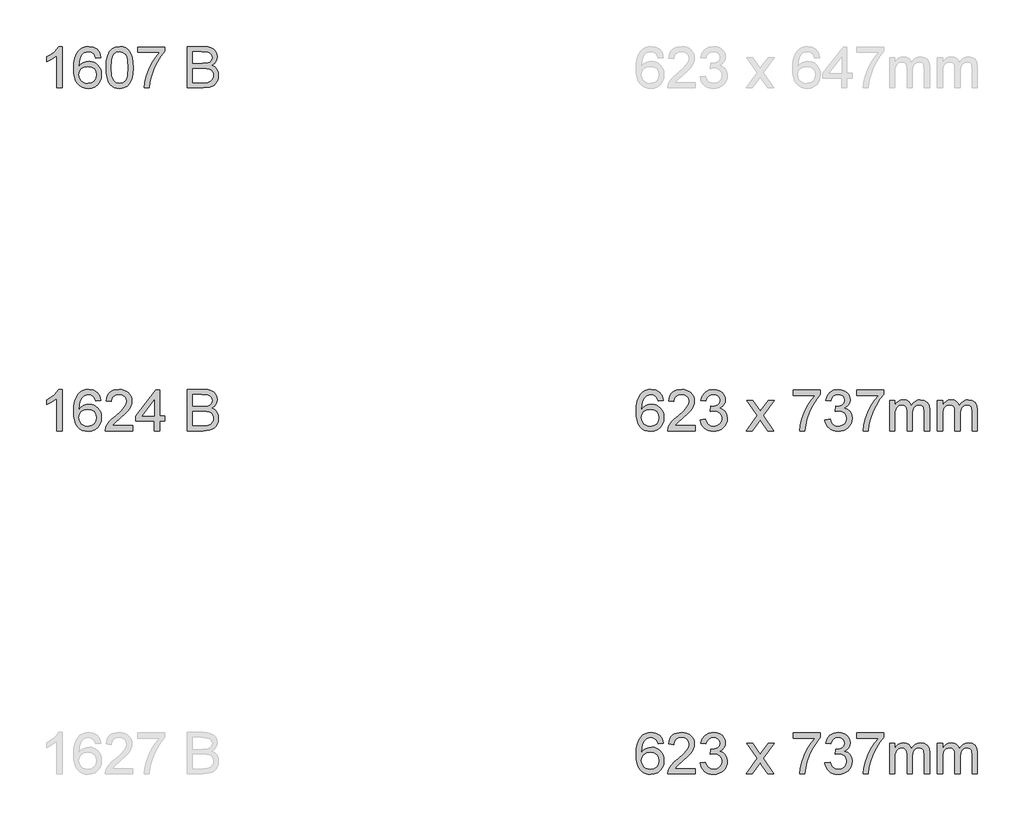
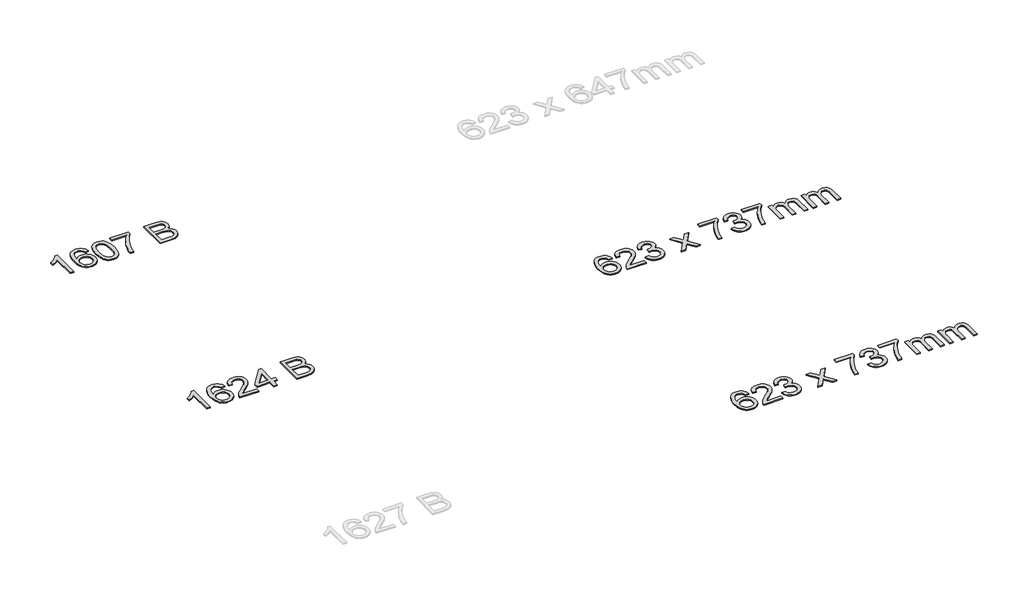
# One storey, part 30 of 39: 4 proxies.
"""IFC4 building model written with IfcOpenShell, lengths in millimetres."""

from ifc_helpers import new_model, si_unit, origin, origin_with_axes, place, context, project, spatial, polyline, outline, extrude, element, save

model = new_model("IFC4")

# Units and contexts
model_context = context("Model", 3, world=origin())
ifc_project = project(units=[si_unit("LENGTHUNIT", "METRE", prefix="MILLI")], contexts=[model_context])

# Site, building, storey
site = spatial("IfcSite", under=ifc_project)
building = spatial("IfcBuilding", under=site)
storey = spatial("IfcBuildingStorey", under=building, Name="Marelli - Linha PROFIT - Planta Baixa", Elevation=0.0)

# Proxies
placement = place(None, origin())
element("IfcBuildingElementProxy", 1, Name="300mm Arial", ObjectType="300mm Arial", at=placement, inside=storey, context=model_context, shape_type="SweptSolid", body=[
    extrude(outline(polyline([(-29517.1779543, 4219.4336799), (-29554.8490706, 4219.4336799), (-29554.8490706, 4454.2895457), (-29590.5336241, 4428.8688998), (-29630.1913032, 4409.8494006), (-29630.1913032, 4445.4603778), (-29600.6043938, 4461.5552151), (-29574.9722158, 4480.7034729), (-29554.7662972, 4501.0657413), (-29541.458166, 4520.8026104), (-29517.1779543, 4520.8026104), (-29517.1779543, 4219.4336799)])), origin_with_axes(), (0.0, 0.0, 1.0), 10.0),
    extrude(outline(polyline([(-29234.644582, 4440.7514882), (-29272.3156983, 4436.0425987), (-29278.3857512, 4454.7126099), (-29286.5895197, 4467.4597211), (-29303.6776384, 4479.2135508), (-29324.3342124, 4483.1314941), (-29341.8453954, 4480.8506257), (-29358.3265088, 4474.0080206), (-29372.4807686, 4459.5962434), (-29384.0414603, 4439.7582068), (-29391.8497556, 4411.6980077), (-29394.7468263, 4372.6197427), (-29379.6360734, 4390.2504873), (-29361.5270821, 4402.6757017), (-29341.4315282, 4410.0425387), (-29320.3610869, 4412.498151), (-29302.2612927, 4410.8196894), (-29285.5594501, 4405.7843046), (-29270.2555591, 4397.3919966), (-29256.3496197, 4385.6427654), (-29244.7935266, 4371.2355867), (-29236.5391743, 4354.8694365), (-29231.5865629, 4336.5443146), (-29229.9356925, 4316.2602211), (-29233.0442953, 4289.2852738), (-29242.3701039, 4264.2784951), (-29257.140566, 4243.0700981), (-29276.5831295, 4227.4902956), (-29299.8148775, 4217.9161667), (-29325.9528932, 4214.7247904), (-29348.4097898, 4216.8401119), (-29368.691584, 4223.1860763), (-29386.798276, 4233.7626836), (-29402.7298656, 4248.5699339), (-29415.7183993, 4268.2332266), (-29424.9959234, 4293.377961), (-29430.5624378, 4324.0041371), (-29432.4179426, 4360.1117549), (-29430.3578034, 4400.5925699), (-29424.1773859, 4435.1412878), (-29413.8766901, 4463.7579085), (-29399.4557159, 4486.442432), (-29383.8253296, 4501.4750101), (-29365.7025428, 4512.2125658), (-29345.0873555, 4518.6550992), (-29321.9797677, 4520.8026104), (-29288.9255704, 4515.4867156), (-29262.4564608, 4499.5390311), (-29243.9152083, 4474.2103557), (-29234.644582, 4440.7514882)]), holes=[polyline([(-29394.7468263, 4316.8488323), (-29392.5671255, 4300.1561867), (-29386.028023, 4284.2176993), (-29375.87448, 4270.514095), (-29362.8514573, 4260.5260988), (-29347.1336991, 4254.4284547), (-29328.8959492, 4252.3959067), (-29304.0363234, 4256.6081555), (-29284.4925924, 4269.2449021), (-29271.8282547, 4289.1105298), (-29267.6068088, 4315.0094223), (-29271.7730724, 4339.8690481), (-29284.2718632, 4358.8241679), (-29304.146688, 4370.826318), (-29330.4410536, 4374.8270347), (-29355.2638912, 4370.826318), (-29376.0216328, 4358.8241679), (-29390.0655279, 4340.3289006), (-29394.7468263, 4316.8488323)])]), origin_with_axes(), (0.0, 0.0, 1.0), 10.0),
    extrude(outline(polyline([(-29196.9734657, 4367.690124), (-29194.2051537, 4415.9286506), (-29185.9002177, 4454.3999103), (-29172.141431, 4483.6925141), (-29153.0115673, 4504.3950734), (-29128.3726707, 4516.7007261), (-29098.0867854, 4520.8026104), (-29074.8734315, 4518.3745892), (-29054.0880988, 4511.0905257), (-29036.7056745, 4499.2355284), (-29023.701046, 4483.0947059), (-29013.8785967, 4462.8060138), (-29006.0427102, 4438.5074081), (-29000.9107564, 4407.6513057), (-28999.2001051, 4367.690124), (-29001.940826, 4319.7275089), (-29010.1629886, 4281.3482197), (-29023.8390017, 4252.0280247), (-29042.9412743, 4231.242692), (-29067.6353533, 4218.8542658), (-29098.0867854, 4214.7247904), (-29118.8353299, 4216.5182151), (-29137.2294297, 4221.8984893), (-29153.2690847, 4230.8656129), (-29166.9542949, 4243.419586), (-29180.0876821, 4266.1133066), (-29189.468673, 4294.3896364), (-29195.0972675, 4328.2485756), (-29196.9734657, 4367.690124)]), holes=[polyline([(-29159.3023494, 4367.7637004), (-29154.8877655, 4308.507108), (-29149.3695355, 4288.2391093), (-29141.6440136, 4274.211309), (-29121.9255387, 4257.8497573), (-29098.0867854, 4252.3959067), (-29074.2480321, 4257.8681514), (-29054.5295572, 4274.2848854), (-29046.8040353, 4288.3356784), (-29041.2858053, 4308.5990785), (-29036.8712214, 4367.7637004), (-29041.1386525, 4425.6867205), (-29046.4729415, 4445.8880406), (-29053.940946, 4460.249234), (-29073.6226327, 4477.410929), (-29098.5282438, 4483.1314941), (-29122.1094797, 4478.0915107), (-29141.0554024, 4462.9715607), (-29149.0384417, 4447.3365759), (-29154.7406127, 4426.2569376), (-29159.3023494, 4367.7637004)])]), origin_with_axes(), (0.0, 0.0, 1.0), 10.0),
    extrude(outline(polyline([(-28966.2378783, 4478.4226045), (-28966.2378783, 4516.0937208), (-28768.4645177, 4516.0937208), (-28768.4645177, 4485.6330916), (-28796.6534756, 4449.9577352), (-28824.566522, 4404.5886881), (-28849.1870245, 4353.6646229), (-28867.4983508, 4301.3242121), (-28876.4746715, 4262.1631737), (-28881.4778666, 4219.4336799), (-28919.1489829, 4219.4336799), (-28915.0746899, 4258.2636245), (-28904.1761857, 4304.4144208), (-28886.7477762, 4353.3335291), (-28863.0837669, 4400.4684098), (-28835.455829, 4443.0783418), (-28806.135634, 4478.4226045), (-28966.2378783, 4478.4226045)])), origin_with_axes(), (0.0, 0.0, 1.0), 10.0),
    extrude(outline(polyline([(-28603.6533839, 4219.4336799), (-28603.6533839, 4520.8026104), (-28488.6534722, 4520.8026104), (-28457.0248177, 4518.5861214), (-28432.3307387, 4511.9366543), (-28413.4032101, 4500.6886623), (-28399.0742064, 4484.6765985), (-28390.0519004, 4465.8410403), (-28387.0444651, 4446.1225654), (-28389.5736538, 4427.9767859), (-28397.16122, 4410.9162584), (-28409.8623459, 4395.9894465), (-28427.7322138, 4384.2448138), (-28406.385861, 4373.0979893), (-28390.6129205, 4356.1386293), (-28380.8732447, 4334.4887739), (-28377.626686, 4309.2704632), (-28379.8431751, 4288.2552042), (-28386.4926421, 4268.7666555), (-28396.416259, 4252.1935716), (-28408.4551972, 4239.9247071), (-28423.1980682, 4231.0403569), (-28441.233483, 4224.6208161), (-28489.536389, 4219.4336799), (-28603.6533839, 4219.4336799)]), holes=[polyline([(-28565.9822676, 4398.3714824), (-28497.1883345, 4398.3714824), (-28457.0156206, 4401.6088439), (-28442.9533313, 4407.1914532), (-28432.8457735, 4415.5515716), (-28426.7481295, 4426.5604403), (-28424.7155814, 4440.0893006), (-28426.6101737, 4453.2226879), (-28432.2939505, 4464.6638179), (-28441.5093945, 4473.5941533), (-28453.9989882, 4479.1951567), (-28502.4122588, 4483.1314941), (-28565.9822676, 4483.1314941), (-28565.9822676, 4398.3714824)]), polyline([(-28565.9822676, 4257.1047962), (-28488.7270486, 4257.1047962), (-28460.768017, 4258.5763242), (-28437.1132047, 4266.7800927), (-28421.4414317, 4283.5187235), (-28416.8337097, 4295.3461296), (-28415.2978024, 4308.9025812), (-28417.1004241, 4324.6479306), (-28422.5082895, 4338.185988), (-28431.9536597, 4348.7717924), (-28445.8687962, 4355.6603827), (-28465.578074, 4359.4403702), (-28492.4058685, 4360.7003661), (-28565.9822676, 4360.7003661), (-28565.9822676, 4257.1047962)])]), origin_with_axes(), (0.0, 0.0, 1.0), 10.0),
])
element("IfcBuildingElementProxy", 2, Name="300mm Arial", ObjectType="300mm Arial", at=placement, inside=storey, context=model_context, shape_type="SweptSolid", body=[
    extrude(outline(polyline([(-29517.1779543, 1719.4336799), (-29554.8490706, 1719.4336799), (-29554.8490706, 1954.2895457), (-29590.5336241, 1928.8688998), (-29630.1913032, 1909.8494006), (-29630.1913032, 1945.4603778), (-29600.6043938, 1961.5552151), (-29574.9722158, 1980.7034729), (-29554.7662972, 2001.0657413), (-29541.458166, 2020.8026104), (-29517.1779543, 2020.8026104), (-29517.1779543, 1719.4336799)])), origin_with_axes(), (0.0, 0.0, 1.0), 10.0),
    extrude(outline(polyline([(-29234.644582, 1940.7514882), (-29272.3156983, 1936.0425987), (-29278.3857512, 1954.7126099), (-29286.5895197, 1967.4597211), (-29303.6776384, 1979.2135508), (-29324.3342124, 1983.1314941), (-29341.8453954, 1980.8506257), (-29358.3265088, 1974.0080206), (-29372.4807686, 1959.5962434), (-29384.0414603, 1939.7582068), (-29391.8497556, 1911.6980077), (-29394.7468263, 1872.6197427), (-29379.6360734, 1890.2504873), (-29361.5270821, 1902.6757017), (-29341.4315282, 1910.0425387), (-29320.3610869, 1912.498151), (-29302.2612927, 1910.8196894), (-29285.5594501, 1905.7843046), (-29270.2555591, 1897.3919966), (-29256.3496197, 1885.6427654), (-29244.7935266, 1871.2355867), (-29236.5391743, 1854.8694365), (-29231.5865629, 1836.5443146), (-29229.9356925, 1816.2602211), (-29233.0442953, 1789.2852738), (-29242.3701039, 1764.2784951), (-29257.140566, 1743.0700981), (-29276.5831295, 1727.4902956), (-29299.8148775, 1717.9161667), (-29325.9528932, 1714.7247904), (-29348.4097898, 1716.8401119), (-29368.691584, 1723.1860763), (-29386.798276, 1733.7626836), (-29402.7298656, 1748.5699339), (-29415.7183993, 1768.2332266), (-29424.9959234, 1793.377961), (-29430.5624378, 1824.0041371), (-29432.4179426, 1860.1117549), (-29430.3578034, 1900.5925699), (-29424.1773859, 1935.1412878), (-29413.8766901, 1963.7579085), (-29399.4557159, 1986.442432), (-29383.8253296, 2001.4750101), (-29365.7025428, 2012.2125658), (-29345.0873555, 2018.6550992), (-29321.9797677, 2020.8026104), (-29288.9255704, 2015.4867156), (-29262.4564608, 1999.5390311), (-29243.9152083, 1974.2103557), (-29234.644582, 1940.7514882)]), holes=[polyline([(-29394.7468263, 1816.8488323), (-29392.5671255, 1800.1561867), (-29386.028023, 1784.2176993), (-29375.87448, 1770.514095), (-29362.8514573, 1760.5260988), (-29347.1336991, 1754.4284547), (-29328.8959492, 1752.3959067), (-29304.0363234, 1756.6081555), (-29284.4925924, 1769.2449021), (-29271.8282547, 1789.1105298), (-29267.6068088, 1815.0094223), (-29271.7730724, 1839.8690481), (-29284.2718632, 1858.8241679), (-29304.146688, 1870.826318), (-29330.4410536, 1874.8270347), (-29355.2638912, 1870.826318), (-29376.0216328, 1858.8241679), (-29390.0655279, 1840.3289006), (-29394.7468263, 1816.8488323)])]), origin_with_axes(), (0.0, 0.0, 1.0), 10.0),
    extrude(outline(polyline([(-29003.9089946, 1757.1047962), (-29003.9089946, 1719.4336799), (-29201.6823552, 1719.4336799), (-29197.6356533, 1745.4061488), (-29188.3466329, 1765.7040379), (-29174.7533932, 1785.3949217), (-29155.0901006, 1806.0055104), (-29127.5909214, 1829.0625145), (-29086.9399609, 1865.1701323), (-29062.5493847, 1891.8231829), (-29050.3540965, 1913.4546442), (-29046.2890005, 1934.4974943), (-29050.1241703, 1953.3606436), (-29061.6296797, 1969.0416137), (-29079.3156066, 1979.609024), (-29101.692029, 1983.1314941), (-29125.1904914, 1979.6917974), (-29143.4466354, 1969.3727075), (-29155.2280563, 1952.9835646), (-29159.3023494, 1931.3337092), (-29196.9734657, 1936.0425987), (-29187.8407952, 1972.4813103), (-29179.2944366, 1987.0172476), (-29168.0947291, 1999.0975727), (-29154.4991901, 2008.5935267), (-29138.765337, 2015.376351), (-29100.8826886, 2020.8026104), (-29080.6928648, 2019.2942942), (-29062.7241286, 2014.7693457), (-29046.97648, 2007.2277648), (-29033.4499189, 1996.6695515), (-29022.5859037, 1983.8764551), (-29014.8258928, 1969.6302249), (-29010.1698863, 1953.9308607), (-29008.6178842, 1936.7783627), (-29010.2917473, 1918.761342), (-29015.3133365, 1901.057021), (-29024.2252778, 1883.0491973), (-29037.5701972, 1864.1216686), (-29058.8429736, 1841.5245171), (-29091.5384859, 1812.5078247), (-29134.8749849, 1776.2714482), (-29151.8711331, 1757.1047962), (-29003.9089946, 1757.1047962)])), origin_with_axes(), (0.0, 0.0, 1.0), 10.0),
    extrude(outline(polyline([(-28843.8067503, 1719.4336799), (-28843.8067503, 1790.067023), (-28980.3645469, 1790.067023), (-28980.3645469, 1827.7381393), (-28834.3889713, 2016.0937208), (-28806.135634, 2016.0937208), (-28806.135634, 1827.7381393), (-28768.4645177, 1827.7381393), (-28768.4645177, 1790.067023), (-28806.135634, 1790.067023), (-28806.135634, 1719.4336799), (-28843.8067503, 1719.4336799)]), holes=[polyline([(-28843.8067503, 1827.7381393), (-28843.8067503, 1944.1360026), (-28934.0114156, 1827.7381393), (-28843.8067503, 1827.7381393)])]), origin_with_axes(), (0.0, 0.0, 1.0), 10.0),
    extrude(outline(polyline([(-28603.6533839, 1719.4336799), (-28603.6533839, 2020.8026104), (-28488.6534722, 2020.8026104), (-28457.0248177, 2018.5861214), (-28432.3307387, 2011.9366543), (-28413.4032101, 2000.6886623), (-28399.0742064, 1984.6765985), (-28390.0519004, 1965.8410403), (-28387.0444651, 1946.1225654), (-28389.5736538, 1927.9767859), (-28397.16122, 1910.9162584), (-28409.8623459, 1895.9894465), (-28427.7322138, 1884.2448138), (-28406.385861, 1873.0979893), (-28390.6129205, 1856.1386293), (-28380.8732447, 1834.4887739), (-28377.626686, 1809.2704632), (-28379.8431751, 1788.2552042), (-28386.4926421, 1768.7666555), (-28396.416259, 1752.1935716), (-28408.4551972, 1739.9247071), (-28423.1980682, 1731.0403569), (-28441.233483, 1724.6208161), (-28489.536389, 1719.4336799), (-28603.6533839, 1719.4336799)]), holes=[polyline([(-28565.9822676, 1898.3714824), (-28497.1883345, 1898.3714824), (-28457.0156206, 1901.6088439), (-28442.9533313, 1907.1914532), (-28432.8457735, 1915.5515716), (-28426.7481295, 1926.5604403), (-28424.7155814, 1940.0893006), (-28426.6101737, 1953.2226879), (-28432.2939505, 1964.6638179), (-28441.5093945, 1973.5941533), (-28453.9989882, 1979.1951567), (-28502.4122588, 1983.1314941), (-28565.9822676, 1983.1314941), (-28565.9822676, 1898.3714824)]), polyline([(-28565.9822676, 1757.1047962), (-28488.7270486, 1757.1047962), (-28460.768017, 1758.5763242), (-28437.1132047, 1766.7800927), (-28421.4414317, 1783.5187235), (-28416.8337097, 1795.3461296), (-28415.2978024, 1808.9025812), (-28417.1004241, 1824.6479306), (-28422.5082895, 1838.185988), (-28431.9536597, 1848.7717924), (-28445.8687962, 1855.6603827), (-28465.578074, 1859.4403702), (-28492.4058685, 1860.7003661), (-28565.9822676, 1860.7003661), (-28565.9822676, 1757.1047962)])]), origin_with_axes(), (0.0, 0.0, 1.0), 10.0),
])
element("IfcBuildingElementProxy", 3, Name="300mm Arial", ObjectType="300mm Arial", at=placement, inside=storey, context=model_context, shape_type="SweptSolid", body=[
    extrude(outline(polyline([(-25136.3969286, 1940.7514882), (-25174.0680449, 1936.0425987), (-25180.1380978, 1954.7126099), (-25188.3418663, 1967.4597211), (-25205.429985, 1979.2135508), (-25226.086559, 1983.1314941), (-25243.597742, 1980.8506257), (-25260.0788554, 1974.0080206), (-25274.2331151, 1959.5962434), (-25285.7938068, 1939.7582068), (-25293.6021022, 1911.6980077), (-25296.4991729, 1872.6197427), (-25281.3884199, 1890.2504873), (-25263.2794287, 1902.6757017), (-25243.1838747, 1910.0425387), (-25222.1134335, 1912.498151), (-25204.0136393, 1910.8196894), (-25187.3117967, 1905.7843046), (-25172.0079057, 1897.3919966), (-25158.1019663, 1885.6427654), (-25146.5458731, 1871.2355867), (-25138.2915209, 1854.8694365), (-25133.3389095, 1836.5443146), (-25131.6880391, 1816.2602211), (-25134.7966419, 1789.2852738), (-25144.1224505, 1764.2784951), (-25158.8929126, 1743.0700981), (-25178.335476, 1727.4902956), (-25201.567224, 1717.9161667), (-25227.7052398, 1714.7247904), (-25250.1621363, 1716.8401119), (-25270.4439306, 1723.1860763), (-25288.5506225, 1733.7626836), (-25304.4822122, 1748.5699339), (-25317.4707459, 1768.2332266), (-25326.7482699, 1793.377961), (-25332.3147844, 1824.0041371), (-25334.1702892, 1860.1117549), (-25332.11015, 1900.5925699), (-25325.9297325, 1935.1412878), (-25315.6290366, 1963.7579085), (-25301.2080624, 1986.442432), (-25285.5776762, 2001.4750101), (-25267.4548894, 2012.2125658), (-25246.8397021, 2018.6550992), (-25223.7321142, 2020.8026104), (-25190.677917, 2015.4867156), (-25164.2088074, 1999.5390311), (-25145.6675549, 1974.2103557), (-25136.3969286, 1940.7514882)]), holes=[polyline([(-25296.4991729, 1816.8488323), (-25294.3194721, 1800.1561867), (-25287.7803696, 1784.2176993), (-25277.6268265, 1770.514095), (-25264.6038039, 1760.5260988), (-25248.8860457, 1754.4284547), (-25230.6482958, 1752.3959067), (-25205.7886699, 1756.6081555), (-25186.2449389, 1769.2449021), (-25173.5806013, 1789.1105298), (-25169.3591554, 1815.0094223), (-25173.525419, 1839.8690481), (-25186.0242097, 1858.8241679), (-25205.8990345, 1870.826318), (-25232.1934001, 1874.8270347), (-25257.0162378, 1870.826318), (-25277.7739793, 1858.8241679), (-25291.8178745, 1840.3289006), (-25296.4991729, 1816.8488323)])]), origin_with_axes(), (0.0, 0.0, 1.0), 10.0),
    extrude(outline(polyline([(-24905.6613412, 1757.1047962), (-24905.6613412, 1719.4336799), (-25103.4347018, 1719.4336799), (-25099.3879999, 1745.4061488), (-25090.0989795, 1765.7040379), (-25076.5057398, 1785.3949217), (-25056.8424471, 1806.0055104), (-25029.343268, 1829.0625145), (-24988.6923075, 1865.1701323), (-24964.3017312, 1891.8231829), (-24952.1064431, 1913.4546442), (-24948.0413471, 1934.4974943), (-24951.8765169, 1953.3606436), (-24963.3820263, 1969.0416137), (-24981.0679532, 1979.609024), (-25003.4443755, 1983.1314941), (-25026.942838, 1979.6917974), (-25045.198982, 1969.3727075), (-25056.9804029, 1952.9835646), (-25061.054696, 1931.3337092), (-25098.7258123, 1936.0425987), (-25089.5931418, 1972.4813103), (-25081.0467832, 1987.0172476), (-25069.8470757, 1999.0975727), (-25056.2515367, 2008.5935267), (-25040.5176836, 2015.376351), (-25002.6350351, 2020.8026104), (-24982.4452114, 2019.2942942), (-24964.4764752, 2014.7693457), (-24948.7288265, 2007.2277648), (-24935.2022654, 1996.6695515), (-24924.3382503, 1983.8764551), (-24916.5782394, 1969.6302249), (-24911.9222329, 1953.9308607), (-24910.3702308, 1936.7783627), (-24912.0440938, 1918.761342), (-24917.0656831, 1901.057021), (-24925.9776244, 1883.0491973), (-24939.3225438, 1864.1216686), (-24960.5953201, 1841.5245171), (-24993.2908325, 1812.5078247), (-25036.6273315, 1776.2714482), (-25053.6234797, 1757.1047962), (-24905.6613412, 1757.1047962)])), origin_with_axes(), (0.0, 0.0, 1.0), 10.0),
    extrude(outline(polyline([(-24867.9902249, 1799.4848021), (-24830.3191086, 1804.1936916), (-24821.8854139, 1780.5204852), (-24809.5337759, 1764.5360125), (-24792.6571893, 1755.4309332), (-24770.648649, 1752.3959067), (-24744.8233329, 1756.5713673), (-24724.8841288, 1769.0977493), (-24712.1370177, 1787.7861546), (-24707.8879806, 1810.4476855), (-24712.1002295, 1831.9595852), (-24724.736976, 1849.4063888), (-24743.8668397, 1860.9670805), (-24767.5584402, 1864.8206444), (-24793.9723675, 1860.7003661), (-24789.7785127, 1898.3714824), (-24783.745248, 1897.930024), (-24761.1756876, 1900.6339567), (-24740.9973602, 1908.7457546), (-24726.760327, 1922.4677531), (-24722.0146492, 1942.002287), (-24725.4543459, 1958.2718683), (-24735.7734358, 1971.4696348), (-24751.5187852, 1980.2160293), (-24771.2372602, 1983.1314941), (-24790.9925233, 1980.1884381), (-24807.1425429, 1971.3592702), (-24818.9331609, 1956.6439904), (-24825.6102191, 1936.0425987), (-24863.2813354, 1940.7514882), (-24852.1896932, 1974.5782377), (-24832.4528242, 1999.8333367), (-24805.4502857, 2015.5602919), (-24772.5616354, 2020.8026104), (-24748.8792319, 2018.2182394), (-24727.128209, 2010.4651263), (-24708.7892915, 1998.23305), (-24695.3432046, 1982.2117891), (-24687.0934508, 1963.75331), (-24684.3435329, 1944.209579), (-24686.9554951, 1925.9994202), (-24694.7913816, 1909.4815186), (-24707.7408278, 1895.4100323), (-24725.6934692, 1884.5391194), (-24702.1122333, 1875.0109757), (-24684.6378385, 1858.7873797), (-24673.8221079, 1836.7512482), (-24670.2168643, 1809.7854979), (-24672.0194861, 1790.6740283), (-24677.4273514, 1773.0708748), (-24686.4404603, 1756.9760375), (-24699.0588127, 1742.3895164), (-24714.4316816, 1730.2861988), (-24731.7083398, 1721.6409719), (-24750.8887873, 1716.4538358), (-24771.9730242, 1714.7247904), (-24791.0293115, 1716.2009169), (-24808.3933417, 1720.6292964), (-24824.0651147, 1728.0099289), (-24838.0446305, 1738.3428145), (-24849.7662706, 1751.0209477), (-24858.6644163, 1765.4373234), (-24864.7390678, 1781.5919415), (-24867.9902249, 1799.4848021)])), origin_with_axes(), (0.0, 0.0, 1.0), 10.0),
    extrude(outline(polyline([(-24533.6590677, 1719.4336799), (-24453.1664871, 1830.6811953), (-24528.9501782, 1940.7514882), (-24483.6271163, 1940.7514882), (-24447.059646, 1887.7764809), (-24429.9899215, 1862.7605053), (-24415.2010652, 1883.2147442), (-24373.5568234, 1940.7514882), (-24328.2337616, 1940.7514882), (-24407.8434253, 1830.6811953), (-24331.1768175, 1719.4336799), (-24376.4998794, 1719.4336799), (-24422.6322815, 1786.3146267), (-24431.0935674, 1798.5283089), (-24488.3360059, 1719.4336799), (-24533.6590677, 1719.4336799)])), origin_with_axes(), (0.0, 0.0, 1.0), 10.0),
    extrude(outline(polyline([(-24189.9101314, 1978.4226045), (-24189.9101314, 2016.0937208), (-23992.1367708, 2016.0937208), (-23992.1367708, 1985.6330916), (-24020.3257287, 1949.9577352), (-24048.2387751, 1904.5886881), (-24072.8592776, 1853.6646229), (-24091.1706039, 1801.3242121), (-24100.1469246, 1762.1631737), (-24105.1501197, 1719.4336799), (-24142.821236, 1719.4336799), (-24138.7469429, 1758.2636245), (-24127.8484388, 1804.4144208), (-24110.4200293, 1853.3335291), (-24086.75602, 1900.4684098), (-24059.1280821, 1943.0783418), (-24029.8078871, 1978.4226045), (-24189.9101314, 1978.4226045)])), origin_with_axes(), (0.0, 0.0, 1.0), 10.0),
    extrude(outline(polyline([(-23959.174544, 1799.4848021), (-23921.5034277, 1804.1936916), (-23913.069733, 1780.5204852), (-23900.718095, 1764.5360125), (-23883.8415085, 1755.4309332), (-23861.8329681, 1752.3959067), (-23836.007652, 1756.5713673), (-23816.0684479, 1769.0977493), (-23803.3213368, 1787.7861546), (-23799.0722997, 1810.4476855), (-23803.2845486, 1831.9595852), (-23815.9212951, 1849.4063888), (-23835.0511589, 1860.9670805), (-23858.7427593, 1864.8206444), (-23885.1566866, 1860.7003661), (-23880.9628318, 1898.3714824), (-23874.9295671, 1897.930024), (-23852.3600067, 1900.6339567), (-23832.1816793, 1908.7457546), (-23817.9446461, 1922.4677531), (-23813.1989683, 1942.002287), (-23816.638665, 1958.2718683), (-23826.957755, 1971.4696348), (-23842.7031044, 1980.2160293), (-23862.4215793, 1983.1314941), (-23882.1768424, 1980.1884381), (-23898.326862, 1971.3592702), (-23910.11748, 1956.6439904), (-23916.7945382, 1936.0425987), (-23954.4656545, 1940.7514882), (-23943.3740123, 1974.5782377), (-23923.6371433, 1999.8333367), (-23896.6346048, 2015.5602919), (-23863.7459545, 2020.8026104), (-23840.063551, 2018.2182394), (-23818.3125281, 2010.4651263), (-23799.9736106, 1998.23305), (-23786.5275237, 1982.2117891), (-23778.2777699, 1963.75331), (-23775.527852, 1944.209579), (-23778.1398142, 1925.9994202), (-23785.9757007, 1909.4815186), (-23798.9251469, 1895.4100323), (-23816.8777883, 1884.5391194), (-23793.2965524, 1875.0109757), (-23775.8221576, 1858.7873797), (-23765.006427, 1836.7512482), (-23761.4011834, 1809.7854979), (-23763.2038052, 1790.6740283), (-23768.6116705, 1773.0708748), (-23777.6247794, 1756.9760375), (-23790.2431318, 1742.3895164), (-23805.6160007, 1730.2861988), (-23822.8926589, 1721.6409719), (-23842.0731064, 1716.4538358), (-23863.1573433, 1714.7247904), (-23882.2136306, 1716.2009169), (-23899.5776608, 1720.6292964), (-23915.2494338, 1728.0099289), (-23929.2289496, 1738.3428145), (-23940.9505897, 1751.0209477), (-23949.8487354, 1765.4373234), (-23955.9233869, 1781.5919415), (-23959.174544, 1799.4848021)])), origin_with_axes(), (0.0, 0.0, 1.0), 10.0),
    extrude(outline(polyline([(-23728.4389566, 1978.4226045), (-23728.4389566, 2016.0937208), (-23530.665596, 2016.0937208), (-23530.665596, 1985.6330916), (-23558.8545539, 1949.9577352), (-23586.7676003, 1904.5886881), (-23611.3881028, 1853.6646229), (-23629.6994291, 1801.3242121), (-23638.6757498, 1762.1631737), (-23643.678945, 1719.4336799), (-23681.3500613, 1719.4336799), (-23677.2757682, 1758.2636245), (-23666.3772641, 1804.4144208), (-23648.9488545, 1853.3335291), (-23625.2848452, 1900.4684098), (-23597.6569074, 1943.0783418), (-23568.3367123, 1978.4226045), (-23728.4389566, 1978.4226045)])), origin_with_axes(), (0.0, 0.0, 1.0), 10.0),
    extrude(outline(polyline([(-23488.2855902, 1719.4336799), (-23488.2855902, 1940.7514882), (-23450.6144739, 1940.7514882), (-23450.6144739, 1904.3311707), (-23439.2837084, 1921.0606044), (-23424.7155814, 1934.1664005), (-23407.4067336, 1942.6368835), (-23387.8538055, 1945.4603778), (-23366.9029259, 1942.5817012), (-23350.1091128, 1933.9456713), (-23337.5643368, 1920.1225054), (-23329.3605683, 1901.6824203), (-23315.6293728, 1920.8352767), (-23299.9667969, 1934.5158884), (-23282.3728404, 1942.7242554), (-23262.8475036, 1945.4603778), (-23234.529787, 1940.9078381), (-23213.5881044, 1927.250219), (-23200.6478552, 1904.1196386), (-23196.3344388, 1871.1482147), (-23196.3344388, 1719.4336799), (-23234.0055551, 1719.4336799), (-23234.0055551, 1854.961407), (-23237.5004341, 1886.4153175), (-23242.4116587, 1895.0881356), (-23250.1555747, 1901.9031495), (-23260.1159797, 1906.3177335), (-23271.6766714, 1907.7892615), (-23292.0849251, 1904.018471), (-23308.7223884, 1892.7060997), (-23319.7864394, 1873.0795952), (-23323.4744564, 1844.3664055), (-23323.4744564, 1719.4336799), (-23361.1455727, 1719.4336799), (-23361.1455727, 1859.1552617), (-23363.3252735, 1880.4556292), (-23369.864376, 1895.6491556), (-23381.3698853, 1904.754235), (-23398.448807, 1907.7892615), (-23412.9617517, 1905.7659105), (-23426.3342622, 1899.6958576), (-23437.3707221, 1889.7262555), (-23444.8755148, 1876.0042571), (-23449.1797341, 1856.9663638), (-23450.6144739, 1831.0490773), (-23450.6144739, 1719.4336799), (-23488.2855902, 1719.4336799)])), origin_with_axes(), (0.0, 0.0, 1.0), 10.0),
    extrude(outline(polyline([(-23139.8277644, 1719.4336799), (-23139.8277644, 1940.7514882), (-23102.1566481, 1940.7514882), (-23102.1566481, 1904.3311707), (-23090.8258826, 1921.0606044), (-23076.2577556, 1934.1664005), (-23058.9489077, 1942.6368835), (-23039.3959797, 1945.4603778), (-23018.4451001, 1942.5817012), (-23001.651287, 1933.9456713), (-22989.1065109, 1920.1225054), (-22980.9027425, 1901.6824203), (-22967.171547, 1920.8352767), (-22951.508971, 1934.5158884), (-22933.9150146, 1942.7242554), (-22914.3896777, 1945.4603778), (-22886.0719611, 1940.9078381), (-22865.1302786, 1927.250219), (-22852.1900294, 1904.1196386), (-22847.876613, 1871.1482147), (-22847.876613, 1719.4336799), (-22885.5477293, 1719.4336799), (-22885.5477293, 1854.961407), (-22889.0426083, 1886.4153175), (-22893.9538329, 1895.0881356), (-22901.6977489, 1901.9031495), (-22911.6581539, 1906.3177335), (-22923.2188456, 1907.7892615), (-22943.6270993, 1904.018471), (-22960.2645625, 1892.7060997), (-22971.3286135, 1873.0795952), (-22975.0166305, 1844.3664055), (-22975.0166305, 1719.4336799), (-23012.6877468, 1719.4336799), (-23012.6877468, 1859.1552617), (-23014.8674477, 1880.4556292), (-23021.4065501, 1895.6491556), (-23032.9120595, 1904.754235), (-23049.9909811, 1907.7892615), (-23064.5039259, 1905.7659105), (-23077.8764364, 1899.6958576), (-23088.9128962, 1889.7262555), (-23096.4176889, 1876.0042571), (-23100.7219083, 1856.9663638), (-23102.1566481, 1831.0490773), (-23102.1566481, 1719.4336799), (-23139.8277644, 1719.4336799)])), origin_with_axes(), (0.0, 0.0, 1.0), 10.0),
])
element("IfcBuildingElementProxy", 4, Name="300mm Arial", ObjectType="300mm Arial", at=placement, inside=storey, context=model_context, shape_type="SweptSolid", body=[
    extrude(outline(polyline([(-25136.3969286, -559.2485118), (-25174.0680449, -563.9574013), (-25180.1380978, -545.2873901), (-25188.3418663, -532.5402789), (-25205.429985, -520.7864492), (-25226.086559, -516.8685059), (-25243.597742, -519.1493743), (-25260.0788554, -525.9919794), (-25274.2331151, -540.4037566), (-25285.7938068, -560.2417932), (-25293.6021022, -588.3019923), (-25296.4991729, -627.3802573), (-25281.3884199, -609.7495127), (-25263.2794287, -597.3242983), (-25243.1838747, -589.9574613), (-25222.1134335, -587.501849), (-25204.0136393, -589.1803106), (-25187.3117967, -594.2156954), (-25172.0079057, -602.6080034), (-25158.1019663, -614.3572346), (-25146.5458731, -628.7644133), (-25138.2915209, -645.1305635), (-25133.3389095, -663.4556854), (-25131.6880391, -683.7397789), (-25134.7966419, -710.7147262), (-25144.1224505, -735.7215049), (-25158.8929126, -756.9299019), (-25178.335476, -772.5097044), (-25201.567224, -782.0838333), (-25227.7052398, -785.2752096), (-25250.1621363, -783.1598881), (-25270.4439306, -776.8139237), (-25288.5506225, -766.2373164), (-25304.4822122, -751.4300661), (-25317.4707459, -731.7667734), (-25326.7482699, -706.622039), (-25332.3147844, -675.9958629), (-25334.1702892, -639.8882451), (-25332.11015, -599.4074301), (-25325.9297325, -564.8587122), (-25315.6290366, -536.2420915), (-25301.2080624, -513.557568), (-25285.5776762, -498.5249899), (-25267.4548894, -487.7874342), (-25246.8397021, -481.3449008), (-25223.7321142, -479.1973896), (-25190.677917, -484.5132844), (-25164.2088074, -500.4609689), (-25145.6675549, -525.7896443), (-25136.3969286, -559.2485118)]), holes=[polyline([(-25296.4991729, -683.1511677), (-25294.3194721, -699.8438133), (-25287.7803696, -715.7823007), (-25277.6268265, -729.485905), (-25264.6038039, -739.4739012), (-25248.8860457, -745.5715453), (-25230.6482958, -747.6040933), (-25205.7886699, -743.3918445), (-25186.2449389, -730.7550979), (-25173.5806013, -710.8894702), (-25169.3591554, -684.9905777), (-25173.525419, -660.1309519), (-25186.0242097, -641.1758321), (-25205.8990345, -629.173682), (-25232.1934001, -625.1729653), (-25257.0162378, -629.173682), (-25277.7739793, -641.1758321), (-25291.8178745, -659.6710994), (-25296.4991729, -683.1511677)])]), origin_with_axes(), (0.0, 0.0, 1.0), 10.0),
    extrude(outline(polyline([(-24905.6613412, -742.8952038), (-24905.6613412, -780.5663201), (-25103.4347018, -780.5663201), (-25099.3879999, -754.5938512), (-25090.0989795, -734.2959621), (-25076.5057398, -714.6050783), (-25056.8424471, -693.9944896), (-25029.343268, -670.9374855), (-24988.6923075, -634.8298677), (-24964.3017312, -608.1768171), (-24952.1064431, -586.5453558), (-24948.0413471, -565.5025057), (-24951.8765169, -546.6393564), (-24963.3820263, -530.9583863), (-24981.0679532, -520.390976), (-25003.4443755, -516.8685059), (-25026.942838, -520.3082026), (-25045.198982, -530.6272925), (-25056.9804029, -547.0164354), (-25061.054696, -568.6662908), (-25098.7258123, -563.9574013), (-25089.5931418, -527.5186897), (-25081.0467832, -512.9827524), (-25069.8470757, -500.9024273), (-25056.2515367, -491.4064733), (-25040.5176836, -484.623649), (-25002.6350351, -479.1973896), (-24982.4452114, -480.7057058), (-24964.4764752, -485.2306543), (-24948.7288265, -492.7722352), (-24935.2022654, -503.3304485), (-24924.3382503, -516.1235449), (-24916.5782394, -530.3697751), (-24911.9222329, -546.0691393), (-24910.3702308, -563.2216373), (-24912.0440938, -581.238658), (-24917.0656831, -598.942979), (-24925.9776244, -616.9508027), (-24939.3225438, -635.8783314), (-24960.5953201, -658.4754829), (-24993.2908325, -687.4921753), (-25036.6273315, -723.7285518), (-25053.6234797, -742.8952038), (-24905.6613412, -742.8952038)])), origin_with_axes(), (0.0, 0.0, 1.0), 10.0),
    extrude(outline(polyline([(-24867.9902249, -700.5151979), (-24830.3191086, -695.8063084), (-24821.8854139, -719.4795148), (-24809.5337759, -735.4639875), (-24792.6571893, -744.5690668), (-24770.648649, -747.6040933), (-24744.8233329, -743.4286327), (-24724.8841288, -730.9022507), (-24712.1370177, -712.2138454), (-24707.8879806, -689.5523145), (-24712.1002295, -668.0404148), (-24724.736976, -650.5936112), (-24743.8668397, -639.0329195), (-24767.5584402, -635.1793556), (-24793.9723675, -639.2996339), (-24789.7785127, -601.6285176), (-24783.745248, -602.069976), (-24761.1756876, -599.3660433), (-24740.9973602, -591.2542454), (-24726.760327, -577.5322469), (-24722.0146492, -557.997713), (-24725.4543459, -541.7281317), (-24735.7734358, -528.5303652), (-24751.5187852, -519.7839707), (-24771.2372602, -516.8685059), (-24790.9925233, -519.8115619), (-24807.1425429, -528.6407298), (-24818.9331609, -543.3560096), (-24825.6102191, -563.9574013), (-24863.2813354, -559.2485118), (-24852.1896932, -525.4217623), (-24832.4528242, -500.1666633), (-24805.4502857, -484.4397081), (-24772.5616354, -479.1973896), (-24748.8792319, -481.7817606), (-24727.128209, -489.5348737), (-24708.7892915, -501.76695), (-24695.3432046, -517.7882109), (-24687.0934508, -536.24669), (-24684.3435329, -555.790421), (-24686.9554951, -574.0005798), (-24694.7913816, -590.5184814), (-24707.7408278, -604.5899677), (-24725.6934692, -615.4608806), (-24702.1122333, -624.9890243), (-24684.6378385, -641.2126203), (-24673.8221079, -663.2487518), (-24670.2168643, -690.2145021), (-24672.0194861, -709.3259717), (-24677.4273514, -726.9291252), (-24686.4404603, -743.0239625), (-24699.0588127, -757.6104836), (-24714.4316816, -769.7138012), (-24731.7083398, -778.3590281), (-24750.8887873, -783.5461642), (-24771.9730242, -785.2752096), (-24791.0293115, -783.7990831), (-24808.3933417, -779.3707036), (-24824.0651147, -771.9900711), (-24838.0446305, -761.6571855), (-24849.7662706, -748.9790523), (-24858.6644163, -734.5626766), (-24864.7390678, -718.4080585), (-24867.9902249, -700.5151979)])), origin_with_axes(), (0.0, 0.0, 1.0), 10.0),
    extrude(outline(polyline([(-24533.6590677, -780.5663201), (-24453.1664871, -669.3188047), (-24528.9501782, -559.2485118), (-24483.6271163, -559.2485118), (-24447.059646, -612.2235191), (-24429.9899215, -637.2394947), (-24415.2010652, -616.7852558), (-24373.5568234, -559.2485118), (-24328.2337616, -559.2485118), (-24407.8434253, -669.3188047), (-24331.1768175, -780.5663201), (-24376.4998794, -780.5663201), (-24422.6322815, -713.6853733), (-24431.0935674, -701.4716911), (-24488.3360059, -780.5663201), (-24533.6590677, -780.5663201)])), origin_with_axes(), (0.0, 0.0, 1.0), 10.0),
    extrude(outline(polyline([(-24189.9101314, -521.5773955), (-24189.9101314, -483.9062792), (-23992.1367708, -483.9062792), (-23992.1367708, -514.3669084), (-24020.3257287, -550.0422648), (-24048.2387751, -595.4113119), (-24072.8592776, -646.3353771), (-24091.1706039, -698.6757879), (-24100.1469246, -737.8368263), (-24105.1501197, -780.5663201), (-24142.821236, -780.5663201), (-24138.7469429, -741.7363755), (-24127.8484388, -695.5855792), (-24110.4200293, -646.6664709), (-24086.75602, -599.5315902), (-24059.1280821, -556.9216582), (-24029.8078871, -521.5773955), (-24189.9101314, -521.5773955)])), origin_with_axes(), (0.0, 0.0, 1.0), 10.0),
    extrude(outline(polyline([(-23959.174544, -700.5151979), (-23921.5034277, -695.8063084), (-23913.069733, -719.4795148), (-23900.718095, -735.4639875), (-23883.8415085, -744.5690668), (-23861.8329681, -747.6040933), (-23836.007652, -743.4286327), (-23816.0684479, -730.9022507), (-23803.3213368, -712.2138454), (-23799.0722997, -689.5523145), (-23803.2845486, -668.0404148), (-23815.9212951, -650.5936112), (-23835.0511589, -639.0329195), (-23858.7427593, -635.1793556), (-23885.1566866, -639.2996339), (-23880.9628318, -601.6285176), (-23874.9295671, -602.069976), (-23852.3600067, -599.3660433), (-23832.1816793, -591.2542454), (-23817.9446461, -577.5322469), (-23813.1989683, -557.997713), (-23816.638665, -541.7281317), (-23826.957755, -528.5303652), (-23842.7031044, -519.7839707), (-23862.4215793, -516.8685059), (-23882.1768424, -519.8115619), (-23898.326862, -528.6407298), (-23910.11748, -543.3560096), (-23916.7945382, -563.9574013), (-23954.4656545, -559.2485118), (-23943.3740123, -525.4217623), (-23923.6371433, -500.1666633), (-23896.6346048, -484.4397081), (-23863.7459545, -479.1973896), (-23840.063551, -481.7817606), (-23818.3125281, -489.5348737), (-23799.9736106, -501.76695), (-23786.5275237, -517.7882109), (-23778.2777699, -536.24669), (-23775.527852, -555.790421), (-23778.1398142, -574.0005798), (-23785.9757007, -590.5184814), (-23798.9251469, -604.5899677), (-23816.8777883, -615.4608806), (-23793.2965524, -624.9890243), (-23775.8221576, -641.2126203), (-23765.006427, -663.2487518), (-23761.4011834, -690.2145021), (-23763.2038052, -709.3259717), (-23768.6116705, -726.9291252), (-23777.6247794, -743.0239625), (-23790.2431318, -757.6104836), (-23805.6160007, -769.7138012), (-23822.8926589, -778.3590281), (-23842.0731064, -783.5461642), (-23863.1573433, -785.2752096), (-23882.2136306, -783.7990831), (-23899.5776608, -779.3707036), (-23915.2494338, -771.9900711), (-23929.2289496, -761.6571855), (-23940.9505897, -748.9790523), (-23949.8487354, -734.5626766), (-23955.9233869, -718.4080585), (-23959.174544, -700.5151979)])), origin_with_axes(), (0.0, 0.0, 1.0), 10.0),
    extrude(outline(polyline([(-23728.4389566, -521.5773955), (-23728.4389566, -483.9062792), (-23530.665596, -483.9062792), (-23530.665596, -514.3669084), (-23558.8545539, -550.0422648), (-23586.7676003, -595.4113119), (-23611.3881028, -646.3353771), (-23629.6994291, -698.6757879), (-23638.6757498, -737.8368263), (-23643.678945, -780.5663201), (-23681.3500613, -780.5663201), (-23677.2757682, -741.7363755), (-23666.3772641, -695.5855792), (-23648.9488545, -646.6664709), (-23625.2848452, -599.5315902), (-23597.6569074, -556.9216582), (-23568.3367123, -521.5773955), (-23728.4389566, -521.5773955)])), origin_with_axes(), (0.0, 0.0, 1.0), 10.0),
    extrude(outline(polyline([(-23488.2855902, -780.5663201), (-23488.2855902, -559.2485118), (-23450.6144739, -559.2485118), (-23450.6144739, -595.6688293), (-23439.2837084, -578.9393956), (-23424.7155814, -565.8335995), (-23407.4067336, -557.3631165), (-23387.8538055, -554.5396222), (-23366.9029259, -557.4182988), (-23350.1091128, -566.0543287), (-23337.5643368, -579.8774946), (-23329.3605683, -598.3175797), (-23315.6293728, -579.1647233), (-23299.9667969, -565.4841116), (-23282.3728404, -557.2757446), (-23262.8475036, -554.5396222), (-23234.529787, -559.0921619), (-23213.5881044, -572.749781), (-23200.6478552, -595.8803614), (-23196.3344388, -628.8517853), (-23196.3344388, -780.5663201), (-23234.0055551, -780.5663201), (-23234.0055551, -645.038593), (-23237.5004341, -613.5846825), (-23242.4116587, -604.9118644), (-23250.1555747, -598.0968505), (-23260.1159797, -593.6822665), (-23271.6766714, -592.2107385), (-23292.0849251, -595.981529), (-23308.7223884, -607.2939003), (-23319.7864394, -626.9204048), (-23323.4744564, -655.6335945), (-23323.4744564, -780.5663201), (-23361.1455727, -780.5663201), (-23361.1455727, -640.8447383), (-23363.3252735, -619.5443708), (-23369.864376, -604.3508444), (-23381.3698853, -595.245765), (-23398.448807, -592.2107385), (-23412.9617517, -594.2340895), (-23426.3342622, -600.3041424), (-23437.3707221, -610.2737445), (-23444.8755148, -623.9957429), (-23449.1797341, -643.0336362), (-23450.6144739, -668.9509227), (-23450.6144739, -780.5663201), (-23488.2855902, -780.5663201)])), origin_with_axes(), (0.0, 0.0, 1.0), 10.0),
    extrude(outline(polyline([(-23139.8277644, -780.5663201), (-23139.8277644, -559.2485118), (-23102.1566481, -559.2485118), (-23102.1566481, -595.6688293), (-23090.8258826, -578.9393956), (-23076.2577556, -565.8335995), (-23058.9489077, -557.3631165), (-23039.3959797, -554.5396222), (-23018.4451001, -557.4182988), (-23001.651287, -566.0543287), (-22989.1065109, -579.8774946), (-22980.9027425, -598.3175797), (-22967.171547, -579.1647233), (-22951.508971, -565.4841116), (-22933.9150146, -557.2757446), (-22914.3896777, -554.5396222), (-22886.0719611, -559.0921619), (-22865.1302786, -572.749781), (-22852.1900294, -595.8803614), (-22847.876613, -628.8517853), (-22847.876613, -780.5663201), (-22885.5477293, -780.5663201), (-22885.5477293, -645.038593), (-22889.0426083, -613.5846825), (-22893.9538329, -604.9118644), (-22901.6977489, -598.0968505), (-22911.6581539, -593.6822665), (-22923.2188456, -592.2107385), (-22943.6270993, -595.981529), (-22960.2645625, -607.2939003), (-22971.3286135, -626.9204048), (-22975.0166305, -655.6335945), (-22975.0166305, -780.5663201), (-23012.6877468, -780.5663201), (-23012.6877468, -640.8447383), (-23014.8674477, -619.5443708), (-23021.4065501, -604.3508444), (-23032.9120595, -595.245765), (-23049.9909811, -592.2107385), (-23064.5039259, -594.2340895), (-23077.8764364, -600.3041424), (-23088.9128962, -610.2737445), (-23096.4176889, -623.9957429), (-23100.7219083, -643.0336362), (-23102.1566481, -668.9509227), (-23102.1566481, -780.5663201), (-23139.8277644, -780.5663201)])), origin_with_axes(), (0.0, 0.0, 1.0), 10.0),
])

save(model, "model.ifc")
